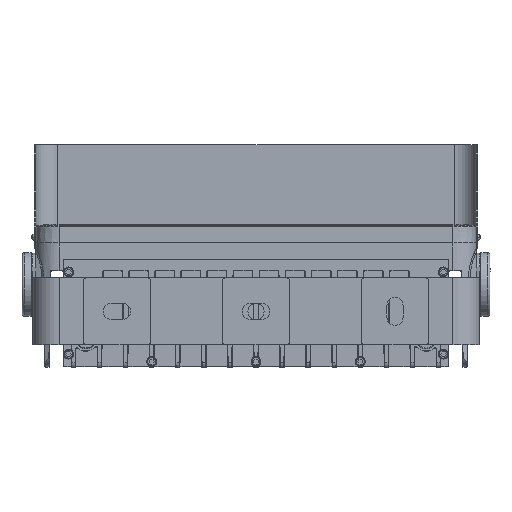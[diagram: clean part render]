
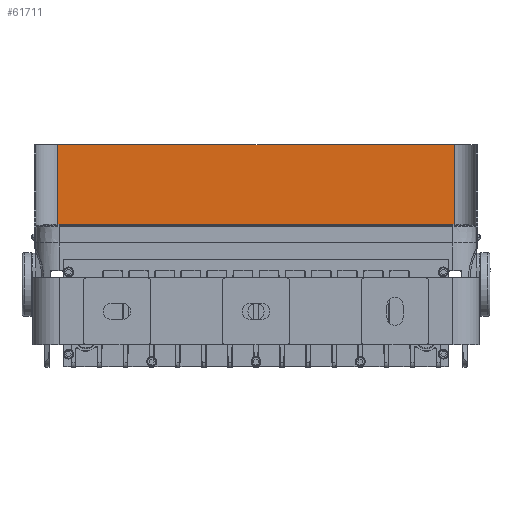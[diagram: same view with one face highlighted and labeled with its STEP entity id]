
A CAD part, front view. The second image highlights one B-rep face of the part: STEP entity #61711.
In plain terms, the highlighted planar face has unit normal (0, -1, 0) as drawn and (0, -0.964, 0.267) by its records, which use the part's own axes.
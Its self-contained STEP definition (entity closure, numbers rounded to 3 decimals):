
#129 = CARTESIAN_POINT ( 'NONE',  ( 79.25, 279.863, 14.985 ) ) ;
#572 = ORIENTED_EDGE ( 'NONE', *, *, #73195, .T. ) ;
#1726 = DIRECTION ( 'NONE',  ( -1., 0., 0. ) ) ;
#3198 = VERTEX_POINT ( 'NONE', #129607 ) ;
#3994 = LINE ( 'NONE', #23188, #103214 ) ;
#4072 = CIRCLE ( 'NONE', #44190, 1.75 ) ;
#5017 = ORIENTED_EDGE ( 'NONE', *, *, #122614, .T. ) ;
#5573 = DIRECTION ( 'NONE',  ( 0., -0.267, -0.964 ) ) ;
#5607 = DIRECTION ( 'NONE',  ( 0., -0.964, 0.267 ) ) ;
#8171 = AXIS2_PLACEMENT_3D ( 'NONE', #121321, #89011, #57953 ) ;
#14362 = EDGE_CURVE ( 'NONE', #63400, #3198, #28072, .T. ) ;
#15797 = CARTESIAN_POINT ( 'NONE',  ( -79.25, 279.863, 14.985 ) ) ;
#16981 = CARTESIAN_POINT ( 'NONE',  ( 79.25, 278.927, 11.612 ) ) ;
#19173 = CARTESIAN_POINT ( 'NONE',  ( 80.75, 279.395, 13.298 ) ) ;
#21773 = EDGE_LOOP ( 'NONE', ( #125375, #22678, #572, #5017 ) ) ;
#22308 = AXIS2_PLACEMENT_3D ( 'NONE', #96781, #96123, #5573 ) ;
#22678 = ORIENTED_EDGE ( 'NONE', *, *, #44659, .F. ) ;
#23188 = CARTESIAN_POINT ( 'NONE',  ( -171., 300.79, 90.385 ) ) ;
#24342 = DIRECTION ( 'NONE',  ( -1., 0., 0. ) ) ;
#24574 = CARTESIAN_POINT ( 'NONE',  ( -80.75, 278.927, 11.612 ) ) ;
#27030 = DIRECTION ( 'NONE',  ( -1., 0., 0. ) ) ;
#28072 = LINE ( 'NONE', #68409, #120021 ) ;
#28381 = EDGE_CURVE ( 'NONE', #33974, #66033, #128900, .T. ) ;
#28643 = CIRCLE ( 'NONE', #22308, 1.75 ) ;
#30757 = FACE_OUTER_BOUND ( 'NONE', #21773, .T. ) ;
#30772 = VERTEX_POINT ( 'NONE', #42175 ) ;
#31362 = EDGE_CURVE ( 'NONE', #66033, #77903, #95666, .T. ) ;
#33974 = VERTEX_POINT ( 'NONE', #129 ) ;
#34988 = CARTESIAN_POINT ( 'NONE',  ( 171., 276.721, 3.663 ) ) ;
#35363 = VECTOR ( 'NONE', #38266, 1000. ) ;
#35660 = ORIENTED_EDGE ( 'NONE', *, *, #70675, .F. ) ;
#38266 = DIRECTION ( 'NONE',  ( 0., 0.267, 0.964 ) ) ;
#39391 = PLANE ( 'NONE',  #8171 ) ;
#41798 = VERTEX_POINT ( 'NONE', #79977 ) ;
#41903 = DIRECTION ( 'NONE',  ( -1., 0., 0. ) ) ;
#42175 = CARTESIAN_POINT ( 'NONE',  ( -80.75, 279.863, 14.985 ) ) ;
#44190 = AXIS2_PLACEMENT_3D ( 'NONE', #19173, #124041, #73808 ) ;
#44659 = EDGE_CURVE ( 'NONE', #47424, #50916, #114278, .T. ) ;
#44917 = LINE ( 'NONE', #34988, #35363 ) ;
#45928 = DIRECTION ( 'NONE',  ( 0., 0.267, 0.964 ) ) ;
#46596 = AXIS2_PLACEMENT_3D ( 'NONE', #96150, #5607, #45928 ) ;
#47176 = CARTESIAN_POINT ( 'NONE',  ( -171., 300.79, 90.385 ) ) ;
#47424 = VERTEX_POINT ( 'NONE', #118780 ) ;
#50916 = VERTEX_POINT ( 'NONE', #115737 ) ;
#50917 = VECTOR ( 'NONE', #27030, 1000. ) ;
#50978 = EDGE_CURVE ( 'NONE', #80330, #33974, #102869, .T. ) ;
#54645 = VECTOR ( 'NONE', #24342, 1000. ) ;
#57095 = CARTESIAN_POINT ( 'NONE',  ( -79.25, 279.863, 14.985 ) ) ;
#57953 = DIRECTION ( 'NONE',  ( 1., 0., 0. ) ) ;
#61711 = ADVANCED_FACE ( 'NONE', ( #69140, #120690, #30757 ), #39391, .F. ) ;
#62801 = CARTESIAN_POINT ( 'NONE',  ( -80.75, 279.395, 13.298 ) ) ;
#63148 = ORIENTED_EDGE ( 'NONE', *, *, #14362, .F. ) ;
#63400 = VERTEX_POINT ( 'NONE', #24574 ) ;
#66033 = VERTEX_POINT ( 'NONE', #117148 ) ;
#68409 = CARTESIAN_POINT ( 'NONE',  ( -80.75, 278.927, 11.612 ) ) ;
#69140 = FACE_BOUND ( 'NONE', #121126, .T. ) ;
#70579 = VERTEX_POINT ( 'NONE', #47176 ) ;
#70675 = EDGE_CURVE ( 'NONE', #3198, #99179, #28643, .T. ) ;
#73195 = EDGE_CURVE ( 'NONE', #47424, #41798, #44917, .T. ) ;
#73808 = DIRECTION ( 'NONE',  ( 0., -0.267, -0.964 ) ) ;
#75208 = DIRECTION ( 'NONE',  ( 1., 0., 0. ) ) ;
#77903 = VERTEX_POINT ( 'NONE', #100334 ) ;
#78459 = DIRECTION ( 'NONE',  ( 0., 0.267, 0.964 ) ) ;
#79015 = EDGE_CURVE ( 'NONE', #30772, #63400, #105470, .T. ) ;
#79820 = LINE ( 'NONE', #123188, #120495 ) ;
#79977 = CARTESIAN_POINT ( 'NONE',  ( 171., 300.79, 90.385 ) ) ;
#80330 = VERTEX_POINT ( 'NONE', #115278 ) ;
#80901 = ORIENTED_EDGE ( 'NONE', *, *, #31362, .F. ) ;
#83163 = VECTOR ( 'NONE', #1726, 1000. ) ;
#84548 = CARTESIAN_POINT ( 'NONE',  ( 171., 276.721, 3.663 ) ) ;
#84692 = EDGE_CURVE ( 'NONE', #99179, #30772, #97776, .T. ) ;
#86030 = ORIENTED_EDGE ( 'NONE', *, *, #79015, .F. ) ;
#88940 = DIRECTION ( 'NONE',  ( 1., 0., 0. ) ) ;
#89011 = DIRECTION ( 'NONE',  ( 0., 0.964, -0.267 ) ) ;
#92803 = AXIS2_PLACEMENT_3D ( 'NONE', #62801, #103109, #78459 ) ;
#95666 = LINE ( 'NONE', #16981, #99681 ) ;
#96123 = DIRECTION ( 'NONE',  ( 0., -0.964, 0.267 ) ) ;
#96150 = CARTESIAN_POINT ( 'NONE',  ( 79.25, 279.395, 13.298 ) ) ;
#96781 = CARTESIAN_POINT ( 'NONE',  ( -79.25, 279.395, 13.298 ) ) ;
#97598 = ORIENTED_EDGE ( 'NONE', *, *, #28381, .F. ) ;
#97776 = LINE ( 'NONE', #15797, #50917 ) ;
#99179 = VERTEX_POINT ( 'NONE', #57095 ) ;
#99681 = VECTOR ( 'NONE', #75208, 1000. ) ;
#100334 = CARTESIAN_POINT ( 'NONE',  ( 80.75, 278.927, 11.612 ) ) ;
#101585 = ORIENTED_EDGE ( 'NONE', *, *, #50978, .F. ) ;
#102869 = LINE ( 'NONE', #120765, #83163 ) ;
#103020 = EDGE_CURVE ( 'NONE', #77903, #80330, #4072, .T. ) ;
#103109 = DIRECTION ( 'NONE',  ( 0., -0.964, 0.267 ) ) ;
#103214 = VECTOR ( 'NONE', #103849, 1000. ) ;
#103366 = ORIENTED_EDGE ( 'NONE', *, *, #84692, .F. ) ;
#103849 = DIRECTION ( 'NONE',  ( 0., -0.267, -0.964 ) ) ;
#105470 = CIRCLE ( 'NONE', #92803, 1.75 ) ;
#114278 = LINE ( 'NONE', #84548, #54645 ) ;
#115278 = CARTESIAN_POINT ( 'NONE',  ( 80.75, 279.863, 14.985 ) ) ;
#115737 = CARTESIAN_POINT ( 'NONE',  ( -171., 276.721, 3.663 ) ) ;
#117148 = CARTESIAN_POINT ( 'NONE',  ( 79.25, 278.927, 11.612 ) ) ;
#117414 = EDGE_LOOP ( 'NONE', ( #63148, #86030, #103366, #35660 ) ) ;
#118780 = CARTESIAN_POINT ( 'NONE',  ( 171., 276.721, 3.663 ) ) ;
#120021 = VECTOR ( 'NONE', #88940, 1000. ) ;
#120213 = EDGE_CURVE ( 'NONE', #70579, #50916, #3994, .T. ) ;
#120495 = VECTOR ( 'NONE', #41903, 1000. ) ;
#120690 = FACE_BOUND ( 'NONE', #117414, .T. ) ;
#120765 = CARTESIAN_POINT ( 'NONE',  ( 80.75, 279.863, 14.985 ) ) ;
#121126 = EDGE_LOOP ( 'NONE', ( #126201, #80901, #97598, #101585 ) ) ;
#121321 = CARTESIAN_POINT ( 'NONE',  ( 190., 276.721, 3.663 ) ) ;
#122614 = EDGE_CURVE ( 'NONE', #41798, #70579, #79820, .T. ) ;
#123188 = CARTESIAN_POINT ( 'NONE',  ( 171., 300.79, 90.385 ) ) ;
#124041 = DIRECTION ( 'NONE',  ( 0., -0.964, 0.267 ) ) ;
#125375 = ORIENTED_EDGE ( 'NONE', *, *, #120213, .T. ) ;
#126201 = ORIENTED_EDGE ( 'NONE', *, *, #103020, .F. ) ;
#128900 = CIRCLE ( 'NONE', #46596, 1.75 ) ;
#129607 = CARTESIAN_POINT ( 'NONE',  ( -79.25, 278.927, 11.612 ) ) ;
